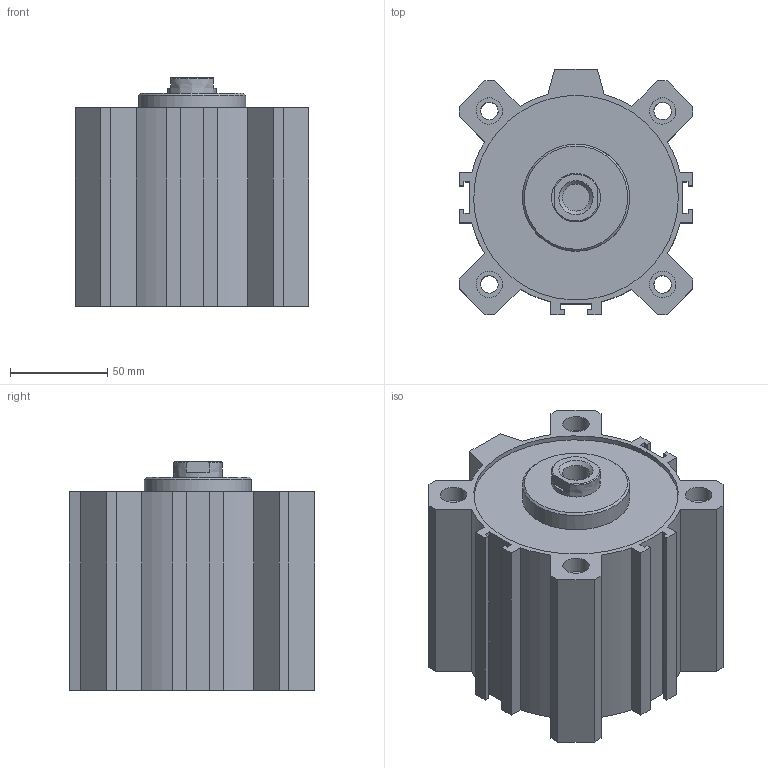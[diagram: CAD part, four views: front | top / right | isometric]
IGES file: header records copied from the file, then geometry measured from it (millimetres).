
Global section: file name: 1511_100_0050; native system: Autodesk Inventor 2014; preprocessor: unknown; author: A. Manieri; date: 20160824.162620; units: millimetre
Bounding box: 120 x 126 x 117.5 mm (x, y, z)
Volume: 818074.4 mm3; surface area: 169819.6 mm2
Topology: 2 solids, 2 shells, 119 faces, 307 edges, 210 vertices
Faces by surface type: bspline 119
